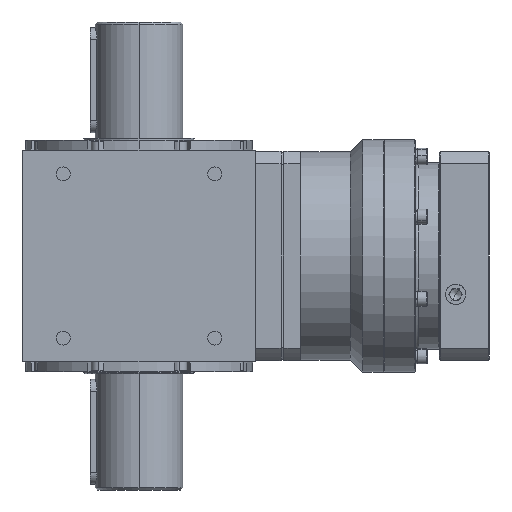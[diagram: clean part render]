
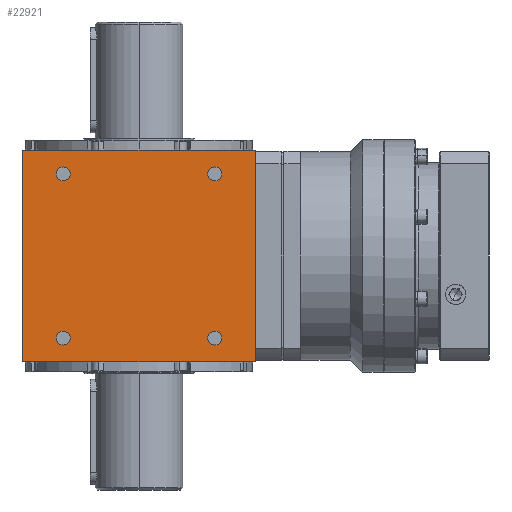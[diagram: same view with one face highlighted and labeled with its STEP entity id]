
A CAD part, left-side view. The second image highlights one B-rep face of the part: STEP entity #22921.
In plain terms, the highlighted planar face has unit normal (-1, 0, 0).
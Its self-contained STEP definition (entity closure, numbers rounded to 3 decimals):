
#337 = DIRECTION ( 'NONE',  ( 0., -1., 0. ) ) ;
#453 = DIRECTION ( 'NONE',  ( -1., 0., 0. ) ) ;
#704 = EDGE_LOOP ( 'NONE', ( #31406, #36458 ) ) ;
#1070 = CARTESIAN_POINT ( 'NONE',  ( -100., -71., 70.5 ) ) ;
#2288 = VERTEX_POINT ( 'NONE', #23453 ) ;
#3246 = ORIENTED_EDGE ( 'NONE', *, *, #37397, .T. ) ;
#3386 = DIRECTION ( 'NONE',  ( 0., -1., 0. ) ) ;
#4042 = FACE_OUTER_BOUND ( 'NONE', #25676, .T. ) ;
#4262 = FACE_BOUND ( 'NONE', #6380, .T. ) ;
#4378 = EDGE_CURVE ( 'NONE', #29635, #4984, #18517, .T. ) ;
#4383 = CARTESIAN_POINT ( 'NONE',  ( -100., 71., 70.5 ) ) ;
#4579 = EDGE_CURVE ( 'NONE', #18579, #34586, #30142, .T. ) ;
#4984 = VERTEX_POINT ( 'NONE', #34805 ) ;
#5630 = CARTESIAN_POINT ( 'NONE',  ( -100., 65., 70.5 ) ) ;
#5842 = CARTESIAN_POINT ( 'NONE',  ( -100., 65., -70.5 ) ) ;
#6202 = CARTESIAN_POINT ( 'NONE',  ( -100., 0., 91. ) ) ;
#6380 = EDGE_LOOP ( 'NONE', ( #35123, #3246 ) ) ;
#6582 = CARTESIAN_POINT ( 'NONE',  ( -100., -65., 70.5 ) ) ;
#7058 = FACE_BOUND ( 'NONE', #18471, .T. ) ;
#7396 = AXIS2_PLACEMENT_3D ( 'NONE', #36644, #9556, #337 ) ;
#8320 = ORIENTED_EDGE ( 'NONE', *, *, #39193, .T. ) ;
#8692 = EDGE_CURVE ( 'NONE', #17124, #34054, #26371, .T. ) ;
#9556 = DIRECTION ( 'NONE',  ( 1., 0., 0. ) ) ;
#9805 = DIRECTION ( 'NONE',  ( 1., 0., 0. ) ) ;
#10213 = LINE ( 'NONE', #19495, #35731 ) ;
#11013 = CARTESIAN_POINT ( 'NONE',  ( -100., -100., -91. ) ) ;
#11507 = CARTESIAN_POINT ( 'NONE',  ( -100., -100., -91. ) ) ;
#11908 = CARTESIAN_POINT ( 'NONE',  ( -100., 65., -70.5 ) ) ;
#12366 = AXIS2_PLACEMENT_3D ( 'NONE', #36504, #17900, #30217 ) ;
#13330 = FACE_BOUND ( 'NONE', #38453, .T. ) ;
#13508 = CARTESIAN_POINT ( 'NONE',  ( -100., 100., -91. ) ) ;
#13819 = AXIS2_PLACEMENT_3D ( 'NONE', #11908, #21190, #21000 ) ;
#13853 = CARTESIAN_POINT ( 'NONE',  ( -100., -65., -70.5 ) ) ;
#14360 = CARTESIAN_POINT ( 'NONE',  ( -100., 100., -91. ) ) ;
#14886 = CARTESIAN_POINT ( 'NONE',  ( -100., 71., -70.5 ) ) ;
#15296 = VERTEX_POINT ( 'NONE', #14360 ) ;
#15756 = DIRECTION ( 'NONE',  ( 0., -1., 0. ) ) ;
#16041 = EDGE_CURVE ( 'NONE', #32118, #2288, #33167, .T. ) ;
#16351 = VECTOR ( 'NONE', #29791, 1000. ) ;
#17124 = VERTEX_POINT ( 'NONE', #11507 ) ;
#17650 = EDGE_CURVE ( 'NONE', #38862, #39175, #37683, .T. ) ;
#17900 = DIRECTION ( 'NONE',  ( 1., 0., 0. ) ) ;
#17942 = DIRECTION ( 'NONE',  ( 1., 0., 0. ) ) ;
#17955 = VERTEX_POINT ( 'NONE', #20089 ) ;
#18183 = ORIENTED_EDGE ( 'NONE', *, *, #4378, .T. ) ;
#18335 = AXIS2_PLACEMENT_3D ( 'NONE', #5842, #17942, #20566 ) ;
#18471 = EDGE_LOOP ( 'NONE', ( #39643, #22177 ) ) ;
#18517 = CIRCLE ( 'NONE', #23670, 6. ) ;
#18579 = VERTEX_POINT ( 'NONE', #23038 ) ;
#18883 = DIRECTION ( 'NONE',  ( 0., -1., 0. ) ) ;
#19495 = CARTESIAN_POINT ( 'NONE',  ( -100., 0., -91. ) ) ;
#19775 = PLANE ( 'NONE',  #28510 ) ;
#19859 = CARTESIAN_POINT ( 'NONE',  ( -100., -100., 91. ) ) ;
#20046 = VECTOR ( 'NONE', #18883, 1000. ) ;
#20089 = CARTESIAN_POINT ( 'NONE',  ( -100., 100., 91. ) ) ;
#20566 = DIRECTION ( 'NONE',  ( 0., -1., 0. ) ) ;
#20757 = EDGE_CURVE ( 'NONE', #15296, #17955, #29597, .T. ) ;
#21000 = DIRECTION ( 'NONE',  ( 0., -1., 0. ) ) ;
#21190 = DIRECTION ( 'NONE',  ( 1., 0., 0. ) ) ;
#21588 = ORIENTED_EDGE ( 'NONE', *, *, #20757, .F. ) ;
#21731 = EDGE_CURVE ( 'NONE', #39175, #38862, #27389, .T. ) ;
#21982 = FACE_BOUND ( 'NONE', #704, .T. ) ;
#22177 = ORIENTED_EDGE ( 'NONE', *, *, #16041, .T. ) ;
#22921 = ADVANCED_FACE ( 'NONE', ( #4042, #21982, #13330, #4262, #7058 ), #19775, .T. ) ;
#23038 = CARTESIAN_POINT ( 'NONE',  ( -100., -71., -70.5 ) ) ;
#23221 = ORIENTED_EDGE ( 'NONE', *, *, #8692, .T. ) ;
#23453 = CARTESIAN_POINT ( 'NONE',  ( -100., 59., -70.5 ) ) ;
#23477 = AXIS2_PLACEMENT_3D ( 'NONE', #5630, #27202, #24572 ) ;
#23486 = CIRCLE ( 'NONE', #7396, 6. ) ;
#23529 = CARTESIAN_POINT ( 'NONE',  ( -100., 100., -91. ) ) ;
#23670 = AXIS2_PLACEMENT_3D ( 'NONE', #6582, #9805, #3386 ) ;
#24572 = DIRECTION ( 'NONE',  ( 0., -1., 0. ) ) ;
#24818 = EDGE_CURVE ( 'NONE', #2288, #32118, #35762, .T. ) ;
#25218 = DIRECTION ( 'NONE',  ( 1., 0., 0. ) ) ;
#25284 = ORIENTED_EDGE ( 'NONE', *, *, #38910, .T. ) ;
#25676 = EDGE_LOOP ( 'NONE', ( #21588, #25284, #23221, #30699 ) ) ;
#26371 = LINE ( 'NONE', #11013, #35764 ) ;
#27202 = DIRECTION ( 'NONE',  ( 1., 0., 0. ) ) ;
#27389 = CIRCLE ( 'NONE', #32558, 6. ) ;
#27781 = LINE ( 'NONE', #6202, #20046 ) ;
#28510 = AXIS2_PLACEMENT_3D ( 'NONE', #13508, #453, #15756 ) ;
#28863 = CARTESIAN_POINT ( 'NONE',  ( -100., 65., 70.5 ) ) ;
#29597 = LINE ( 'NONE', #23529, #16351 ) ;
#29635 = VERTEX_POINT ( 'NONE', #1070 ) ;
#29777 = CIRCLE ( 'NONE', #12366, 6. ) ;
#29791 = DIRECTION ( 'NONE',  ( 0., 0., 1. ) ) ;
#30142 = CIRCLE ( 'NONE', #33379, 6. ) ;
#30217 = DIRECTION ( 'NONE',  ( 0., -1., 0. ) ) ;
#30699 = ORIENTED_EDGE ( 'NONE', *, *, #36402, .F. ) ;
#31406 = ORIENTED_EDGE ( 'NONE', *, *, #21731, .T. ) ;
#32118 = VERTEX_POINT ( 'NONE', #14886 ) ;
#32558 = AXIS2_PLACEMENT_3D ( 'NONE', #28863, #25218, #34537 ) ;
#32818 = DIRECTION ( 'NONE',  ( 0., -1., 0. ) ) ;
#33167 = CIRCLE ( 'NONE', #13819, 6. ) ;
#33379 = AXIS2_PLACEMENT_3D ( 'NONE', #13853, #38675, #32818 ) ;
#33819 = CARTESIAN_POINT ( 'NONE',  ( -100., 59., 70.5 ) ) ;
#34054 = VERTEX_POINT ( 'NONE', #19859 ) ;
#34537 = DIRECTION ( 'NONE',  ( 0., -1., 0. ) ) ;
#34586 = VERTEX_POINT ( 'NONE', #37740 ) ;
#34805 = CARTESIAN_POINT ( 'NONE',  ( -100., -59., 70.5 ) ) ;
#35123 = ORIENTED_EDGE ( 'NONE', *, *, #4579, .T. ) ;
#35659 = DIRECTION ( 'NONE',  ( 0., 0., 1. ) ) ;
#35731 = VECTOR ( 'NONE', #38081, 1000. ) ;
#35762 = CIRCLE ( 'NONE', #18335, 6. ) ;
#35764 = VECTOR ( 'NONE', #35659, 1000. ) ;
#36402 = EDGE_CURVE ( 'NONE', #17955, #34054, #27781, .T. ) ;
#36458 = ORIENTED_EDGE ( 'NONE', *, *, #17650, .T. ) ;
#36504 = CARTESIAN_POINT ( 'NONE',  ( -100., -65., -70.5 ) ) ;
#36644 = CARTESIAN_POINT ( 'NONE',  ( -100., -65., 70.5 ) ) ;
#37397 = EDGE_CURVE ( 'NONE', #34586, #18579, #29777, .T. ) ;
#37683 = CIRCLE ( 'NONE', #23477, 6. ) ;
#37740 = CARTESIAN_POINT ( 'NONE',  ( -100., -59., -70.5 ) ) ;
#38081 = DIRECTION ( 'NONE',  ( 0., -1., 0. ) ) ;
#38453 = EDGE_LOOP ( 'NONE', ( #18183, #8320 ) ) ;
#38675 = DIRECTION ( 'NONE',  ( 1., 0., 0. ) ) ;
#38862 = VERTEX_POINT ( 'NONE', #4383 ) ;
#38910 = EDGE_CURVE ( 'NONE', #15296, #17124, #10213, .T. ) ;
#39175 = VERTEX_POINT ( 'NONE', #33819 ) ;
#39193 = EDGE_CURVE ( 'NONE', #4984, #29635, #23486, .T. ) ;
#39643 = ORIENTED_EDGE ( 'NONE', *, *, #24818, .T. ) ;
